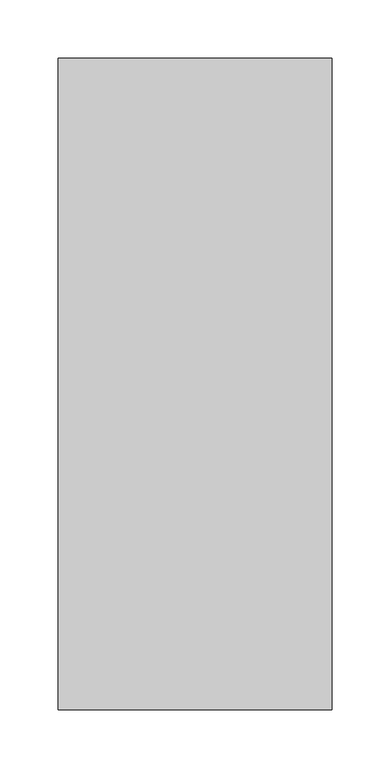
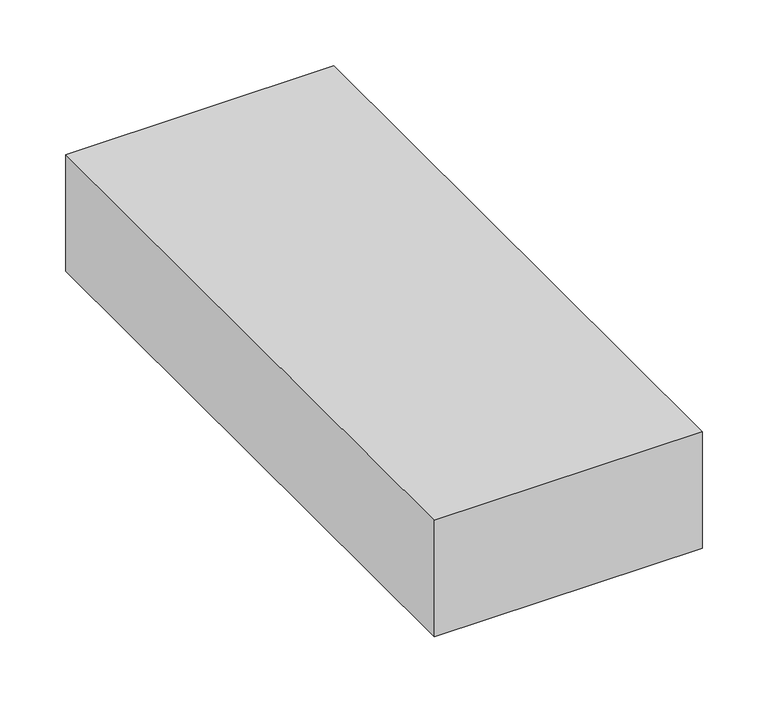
"""IFC4 building model written with IfcOpenShell, lengths in millimetres: proxy geometry, AERO^OFFICE 1_DESK SUPPORT LEG-SMALL END SHROUD."""

from ifc_helpers import new_model, si_unit, frame, origin, place, context, project, spatial, polyline, outline, extrude, source, transform, mapped, element, save


def generic_models_b56b2c29(model_context):
    return source(origin(), model_context, "Body", "SweptSolid", [
        extrude(outline(polyline([(234.95, 0.0), (0.0, 0.0), (0.0, 558.8), (234.95, 558.8), (234.95, 0.0)])), frame((0.0, 0.0, -107.95), z_axis=(0.0, 0.0, 1.0), x_axis=(1.0, 0.0, 0.0)), (0.0, 0.0, 1.0), 107.95),
    ])


if __name__ == "__main__":
    model = new_model("IFC4")
    model_context = context("Model", 3, world=origin())
    ifc_project = project(units=[si_unit("LENGTHUNIT", "METRE", prefix="MILLI")], contexts=[model_context])
    site = spatial("IfcSite", under=ifc_project)
    building = spatial("IfcBuilding", under=site)
    placement = place(None, origin())
    generic_models_shape = generic_models_b56b2c29(model_context)
    element("IfcBuildingElementProxy", 1, Name="AERO^OFFICE 1_DESK SUPPORT LEG-SMALL END SHROUD", ObjectType="AERO^OFFICE 1_DESK SUPPORT LEG-SMALL END SHROUD", at=placement, inside=building, context=model_context, shape_type="MappedRepresentation", body=[
        mapped(generic_models_shape, transform((0.0, 0.0, 0.0), x_axis=(1.0, 0.0, 0.0), y_axis=(0.0, 1.0, 0.0), z_axis=(0.0, 0.0, 1.0))),
    ])
    save(model, "model.ifc")
